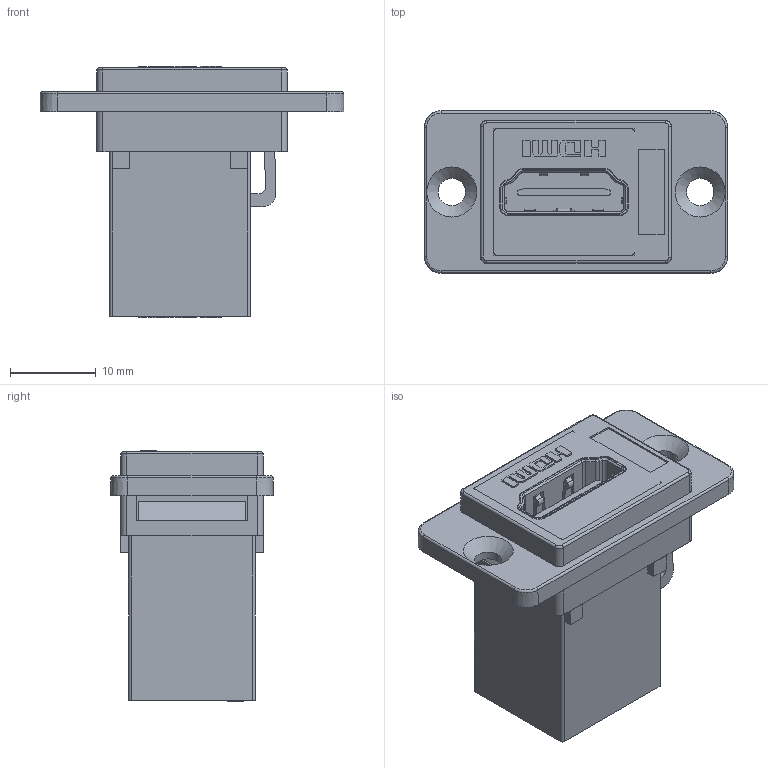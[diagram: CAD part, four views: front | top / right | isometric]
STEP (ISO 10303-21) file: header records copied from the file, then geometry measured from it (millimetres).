
FILE_DESCRIPTION(/* description */ (''),/* implementation_level */ '2;1');
FILE_NAME(/* name */ 'S:\0358 - Rectangle FT Frames\CAD\CAD for Customers\HDMI\CP30700G HDMI CSK.stp',/* time_stamp */ '2021-07-02T09:03:48+01:00',/* author */ ('tottley'),/* organization */ (''),/* preprocessor_version */ 'ST-DEVELOPER v18',/* originating_system */ 'Autodesk Inventor 2020',/* authorisation */ '');
FILE_SCHEMA (('AUTOMOTIVE_DESIGN { 1 0 10303 214 3 1 1 }'));
Length unit declared in the file: millimetre
Products named in the file (1): Part4
Bounding box: 35.5 x 19 x 29.4 mm (x, y, z)
Volume: 7854.4 mm3; surface area: 5846.6 mm2
Topology: 1 solids, 1 shells, 828 faces, 2293 edges, 1478 vertices
Faces by surface type: plane 651, cylinder 116, cone 26, torus 24, bspline 11
Full cylindrical faces by diameter (mm): 3.2 x2
Entity records: 27115 total; most frequent: CARTESIAN_POINT 5066, ORIENTED_EDGE 4586, DIRECTION 4089, EDGE_CURVE 2293, LINE 1977, VECTOR 1977, VERTEX_POINT 1478, AXIS2_PLACEMENT_3D 1056
